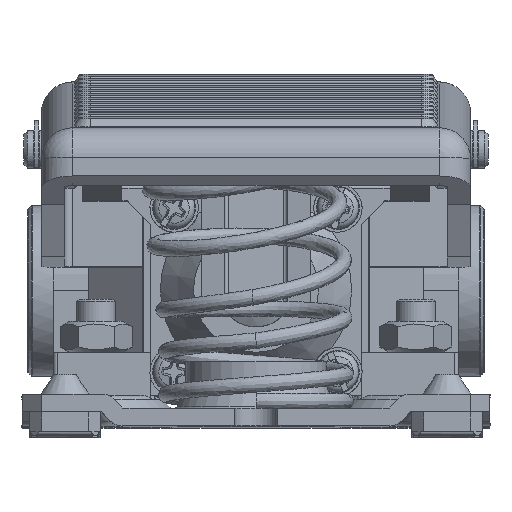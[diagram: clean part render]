
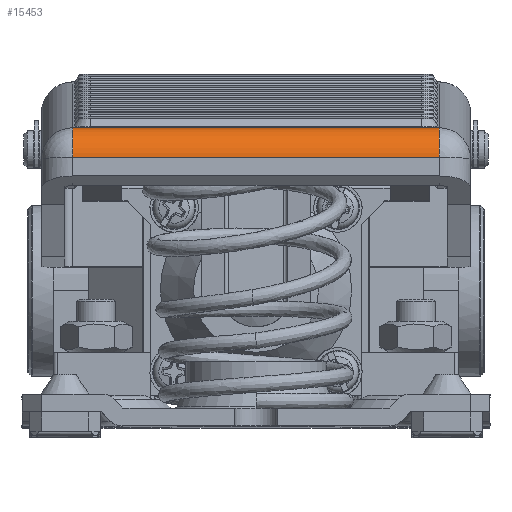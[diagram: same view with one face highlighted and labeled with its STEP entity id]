
A CAD part, top view. The second image highlights one B-rep face of the part: STEP entity #15453.
In plain terms, the highlighted cylindrical face has radius 4 mm (diameter 8 mm), a partial arc.
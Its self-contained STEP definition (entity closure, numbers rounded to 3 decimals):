
#14860=CARTESIAN_POINT('',(23.5,34.4,83.5));
#14861=VERTEX_POINT('',#14860);
#15099=CARTESIAN_POINT('',(23.5,38.235,79.841));
#15100=VERTEX_POINT('',#15099);
#15187=CARTESIAN_POINT('',(-23.5,38.235,79.841));
#15188=VERTEX_POINT('',#15187);
#15282=CARTESIAN_POINT('',(23.5,34.249,79.503));
#15283=DIRECTION('',(1.0,0.,0.));
#15284=DIRECTION('',(0.,-0.996,-0.084));
#15285=AXIS2_PLACEMENT_3D('',#15282,#15283,#15284);
#15286=CIRCLE('',#15285,4.);
#15287=EDGE_CURVE('',#15100,#14861,#15286,.T.);
#15309=CARTESIAN_POINT('',(-23.5,34.4,83.5));
#15310=VERTEX_POINT('',#15309);
#15339=CARTESIAN_POINT('',(-23.5,34.249,79.503));
#15340=DIRECTION('',(-1.0,0.,0.));
#15341=DIRECTION('',(0.,-0.996,-0.084));
#15342=AXIS2_PLACEMENT_3D('',#15339,#15340,#15341);
#15343=CIRCLE('',#15342,4.);
#15344=EDGE_CURVE('',#15310,#15188,#15343,.T.);
#15358=CARTESIAN_POINT('',(23.5,38.235,79.841));
#15359=DIRECTION('',(-1.0,0.0,0.0));
#15360=VECTOR('',#15359,47.);
#15361=LINE('',#15358,#15360);
#15362=EDGE_CURVE('',#15100,#15188,#15361,.T.);
#15437=CARTESIAN_POINT('',(0.,34.249,79.503));
#15438=DIRECTION('',(1.0,0.,0.));
#15439=DIRECTION('',(0.,-0.996,-0.084));
#15440=AXIS2_PLACEMENT_3D('',#15437,#15438,#15439);
#15441=CYLINDRICAL_SURFACE('',#15440,4.);
#15442=ORIENTED_EDGE('',*,*,#15287,.F.);
#15443=ORIENTED_EDGE('',*,*,#15362,.T.);
#15444=ORIENTED_EDGE('',*,*,#15344,.F.);
#15445=CARTESIAN_POINT('',(23.5,34.4,83.5));
#15446=DIRECTION('',(-1.0,0.0,0.0));
#15447=VECTOR('',#15446,47.0);
#15448=LINE('',#15445,#15447);
#15449=EDGE_CURVE('',#14861,#15310,#15448,.T.);
#15450=ORIENTED_EDGE('',*,*,#15449,.F.);
#15451=EDGE_LOOP('',(#15442,#15443,#15444,#15450));
#15452=FACE_OUTER_BOUND('',#15451,.T.);
#15453=ADVANCED_FACE('',(#15452),#15441,.T.);
